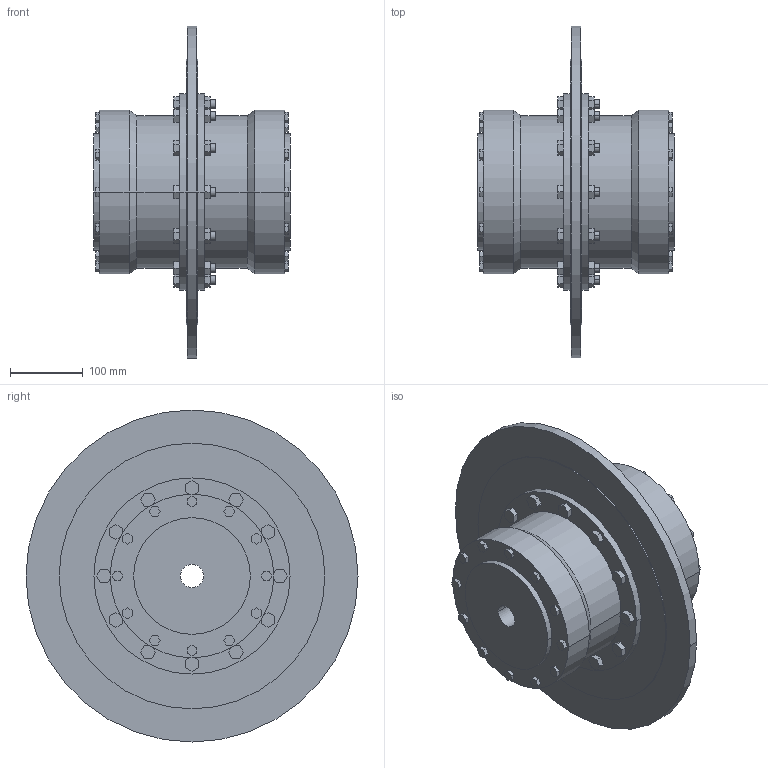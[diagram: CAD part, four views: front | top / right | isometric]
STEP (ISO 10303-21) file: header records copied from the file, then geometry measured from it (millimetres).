
FILE_DESCRIPTION((''),'2;1');
FILE_NAME('A19730300-0_ASM','2019-05-23T',('AB_Roschiwal'),('RENK AG'),'PRO/ENGINEER BY PARAMETRIC TECHNOLOGY CORPORATION, 2015440','PRO/ENGINEER BY PARAMETRIC TECHNOLOGY CORPORATION, 2015440','');
FILE_SCHEMA(('CONFIG_CONTROL_DESIGN'));
Length unit declared in the file: millimetre
Products named in the file (4): SBKT100_GEHAEUSE; SBKT100_NABE; SBKT100_BREMSSCHEIBE; A19730300-0_ASM
Assembly tree (4 placements, depth 2):
  A19730300-0_ASM
    SBKT100_GEHAEUSE
    SBKT100_NABE  x2
    SBKT100_BREMSSCHEIBE
Bounding box: 271 x 457 x 457 mm (x, y, z)
Volume: 9928877.7 mm3; surface area: 1054313.5 mm2
Topology: 4 solids, 4 shells, 470 faces, 1156 edges, 768 vertices
Faces by surface type: plane 370, cylinder 96, cone 4
Entity records: 13604 total; most frequent: CARTESIAN_POINT 2350, ORIENTED_EDGE 2264, DIRECTION 2240, EDGE_CURVE 1132, VECTOR 956, LINE 956, VERTEX_POINT 752, AXIS2_PLACEMENT_3D 642
